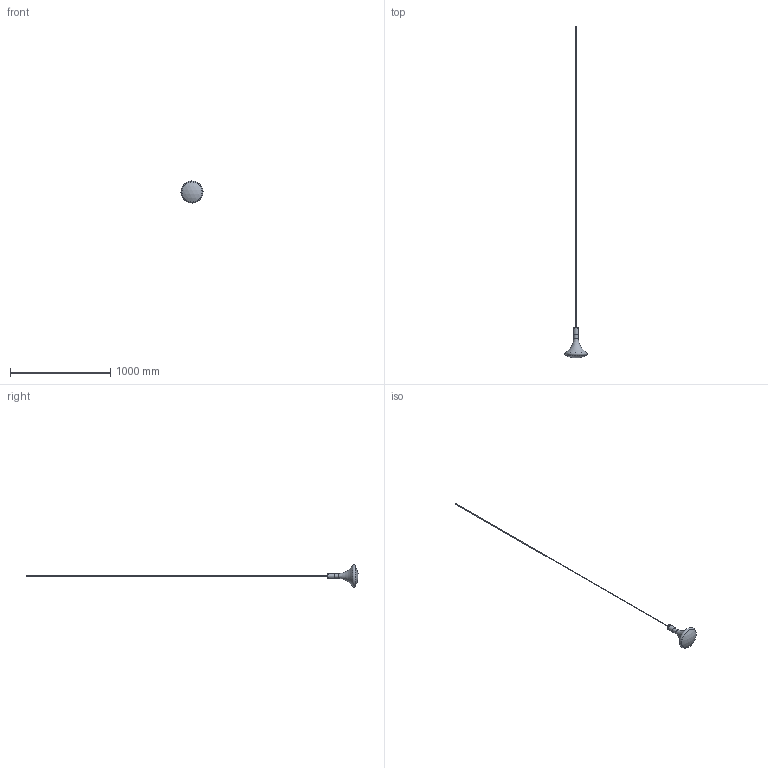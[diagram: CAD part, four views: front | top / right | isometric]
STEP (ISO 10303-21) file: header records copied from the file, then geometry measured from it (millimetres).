
FILE_DESCRIPTION(/* description */ (''),/* implementation_level */ '2;1');
FILE_NAME(/* name */ 'CATHODE 2.stp',/* time_stamp */ '2025-02-03T12:24:29+01:00',/* author */ ('n.bisotti'),/* organization */ (''),/* preprocessor_version */ 'ST-DEVELOPER v19.2',/* originating_system */ 'Autodesk Inventor 2023',/* authorisation */ '');
FILE_SCHEMA (('AUTOMOTIVE_DESIGN { 1 0 10303 214 3 1 1 }'));
Length unit declared in the file: millimetre
Products named in the file (4): Assieme2; corpo; diffusore; 3000 R 120x28
Assembly tree (3 placements, depth 2):
  Assieme2
    corpo
    diffusore
    3000 R 120x28
Bounding box: 220.33 x 3303.86 x 220.33 mm (x, y, z)
Volume: 546502.5 mm3; surface area: 358769.8 mm2
Topology: 3 solids, 4 shells, 39 faces, 67 edges, 43 vertices
Faces by surface type: cylinder 14, plane 13, torus 6, cone 4, sphere 2
Full cylindrical faces by diameter (mm): 4.5 x1, 5 x1, 19.5 x2, 22 x1, 23 x1, 24 x1, 25 x2, 35 x1, 36 x1, 43 x1, 46.5 x1, 49.5 x1
Entity records: 1156 total; most frequent: DIRECTION 208, CARTESIAN_POINT 156, ORIENTED_EDGE 133, AXIS2_PLACEMENT_3D 95, EDGE_CURVE 67, EDGE_LOOP 49, CIRCLE 49, VERTEX_POINT 43
